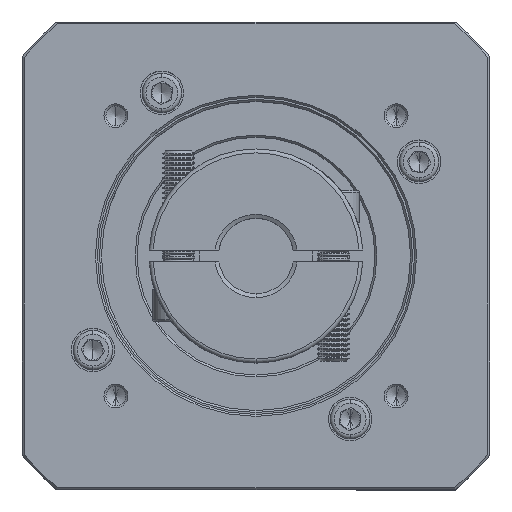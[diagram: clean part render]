
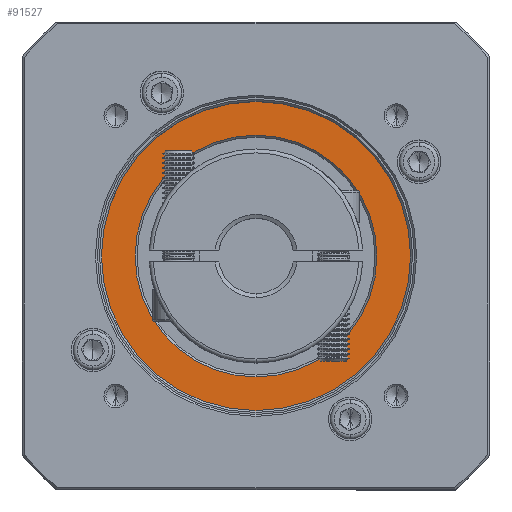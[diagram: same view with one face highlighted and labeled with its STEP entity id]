
A CAD part, top view. The second image highlights one B-rep face of the part: STEP entity #91527.
In plain terms, the highlighted planar face has unit normal (0, 0, 1).
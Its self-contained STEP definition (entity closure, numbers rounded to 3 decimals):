
#4636 = DIRECTION ( 'NONE',  ( 0., 0., 1. ) ) ;
#5267 = CIRCLE ( 'NONE', #99069, 39. ) ;
#8924 = PLANE ( 'NONE',  #116198 ) ;
#10058 = DIRECTION ( 'NONE',  ( 0., -1., 0. ) ) ;
#13189 = EDGE_CURVE ( 'NONE', #120838, #106025, #119870, .T. ) ;
#13696 = EDGE_LOOP ( 'NONE', ( #56791, #111817 ) ) ;
#14127 = CIRCLE ( 'NONE', #40586, 30.5 ) ;
#20819 = FACE_BOUND ( 'NONE', #71732, .T. ) ;
#32463 = CARTESIAN_POINT ( 'NONE',  ( 63.593, 43.402, -36.175 ) ) ;
#32716 = CARTESIAN_POINT ( 'NONE',  ( 63.593, 43.402, -36.175 ) ) ;
#37860 = EDGE_CURVE ( 'NONE', #106025, #120838, #5267, .T. ) ;
#40221 = CARTESIAN_POINT ( 'NONE',  ( 63.593, 43.402, -36.175 ) ) ;
#40586 = AXIS2_PLACEMENT_3D ( 'NONE', #95813, #48399, #10058 ) ;
#44393 = CARTESIAN_POINT ( 'NONE',  ( 63.593, 73.902, -36.175 ) ) ;
#46464 = CARTESIAN_POINT ( 'NONE',  ( 63.593, 43.402, -36.175 ) ) ;
#46769 = CARTESIAN_POINT ( 'NONE',  ( 63.593, 82.402, -36.175 ) ) ;
#48399 = DIRECTION ( 'NONE',  ( 0., 0., -1. ) ) ;
#54640 = DIRECTION ( 'NONE',  ( 0., 0., 1. ) ) ;
#56791 = ORIENTED_EDGE ( 'NONE', *, *, #37860, .T. ) ;
#58734 = AXIS2_PLACEMENT_3D ( 'NONE', #32463, #62069, #108842 ) ;
#61445 = CARTESIAN_POINT ( 'NONE',  ( 63.593, 4.402, -36.175 ) ) ;
#62069 = DIRECTION ( 'NONE',  ( 0., 0., -1. ) ) ;
#63371 = VERTEX_POINT ( 'NONE', #44393 ) ;
#71732 = EDGE_LOOP ( 'NONE', ( #117333, #105271 ) ) ;
#74504 = AXIS2_PLACEMENT_3D ( 'NONE', #32716, #4636, #89616 ) ;
#74908 = CARTESIAN_POINT ( 'NONE',  ( 63.593, 12.902, -36.175 ) ) ;
#85601 = VERTEX_POINT ( 'NONE', #74908 ) ;
#88245 = EDGE_CURVE ( 'NONE', #85601, #63371, #89904, .T. ) ;
#89616 = DIRECTION ( 'NONE',  ( 0., -1., 0. ) ) ;
#89904 = CIRCLE ( 'NONE', #58734, 30.5 ) ;
#91527 = ADVANCED_FACE ( 'NONE', ( #20819, #119680 ), #8924, .T. ) ;
#93869 = EDGE_CURVE ( 'NONE', #63371, #85601, #14127, .T. ) ;
#95813 = CARTESIAN_POINT ( 'NONE',  ( 63.593, 43.402, -36.175 ) ) ;
#96321 = DIRECTION ( 'NONE',  ( 0., -1., 0. ) ) ;
#99069 = AXIS2_PLACEMENT_3D ( 'NONE', #40221, #115026, #96321 ) ;
#103390 = DIRECTION ( 'NONE',  ( 0., -1., 0. ) ) ;
#105271 = ORIENTED_EDGE ( 'NONE', *, *, #93869, .T. ) ;
#106025 = VERTEX_POINT ( 'NONE', #61445 ) ;
#108842 = DIRECTION ( 'NONE',  ( 0., -1., 0. ) ) ;
#111817 = ORIENTED_EDGE ( 'NONE', *, *, #13189, .T. ) ;
#115026 = DIRECTION ( 'NONE',  ( 0., 0., 1. ) ) ;
#116198 = AXIS2_PLACEMENT_3D ( 'NONE', #46464, #54640, #103390 ) ;
#117333 = ORIENTED_EDGE ( 'NONE', *, *, #88245, .T. ) ;
#119680 = FACE_OUTER_BOUND ( 'NONE', #13696, .T. ) ;
#119870 = CIRCLE ( 'NONE', #74504, 39. ) ;
#120838 = VERTEX_POINT ( 'NONE', #46769 ) ;
